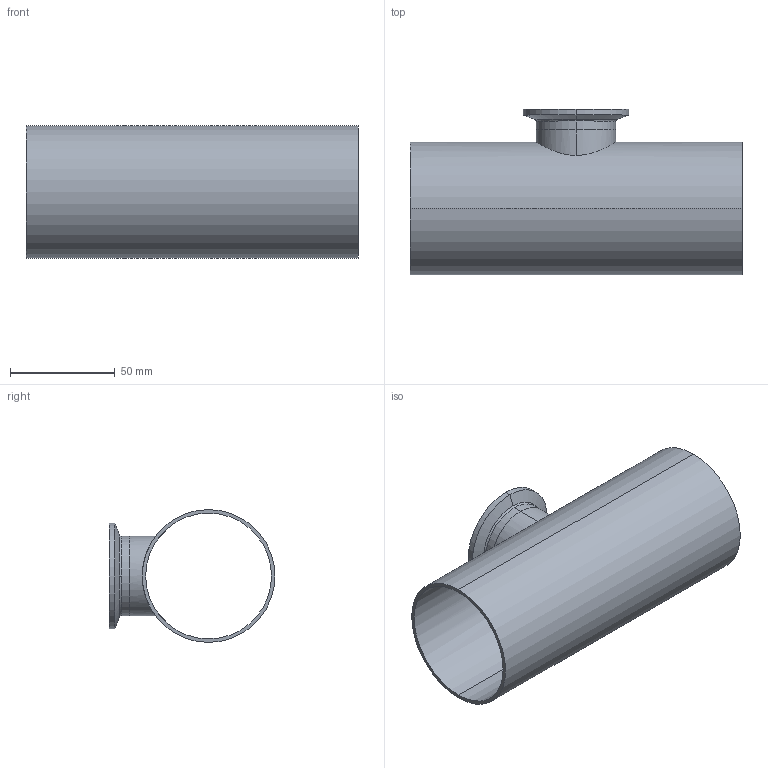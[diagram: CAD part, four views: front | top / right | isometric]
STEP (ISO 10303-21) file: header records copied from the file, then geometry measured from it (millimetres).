
FILE_DESCRIPTION (( 'STEP AP214' ), '1' );
FILE_NAME ('TE7RWWCS6L2.5x1.5-...STEP', '2016-05-23T12:12:57', ( 'eran' ), ( '' ), 'SwSTEP 2.0', 'SolidWorks 2016', '' );
FILE_SCHEMA (( 'AUTOMOTIVE_DESIGN' ));
Length unit declared in the file: millimetre
Products named in the file (1): TE7RWWCS6L2.5x1.5-..
Bounding box: 158.8 x 79.35 x 63.5 mm (x, y, z)
Volume: 55964.3 mm3; surface area: 66838.3 mm2
Topology: 2 solids, 2 shells, 36 faces, 88 edges, 58 vertices
Faces by surface type: cylinder 14, bspline 10, plane 6, cone 6
Entity records: 1974 total; most frequent: CARTESIAN_POINT 1069, DIRECTION 190, ORIENTED_EDGE 176, EDGE_CURVE 88, AXIS2_PLACEMENT_3D 85, VERTEX_POINT 58, CIRCLE 58, EDGE_LOOP 44
